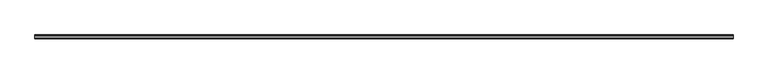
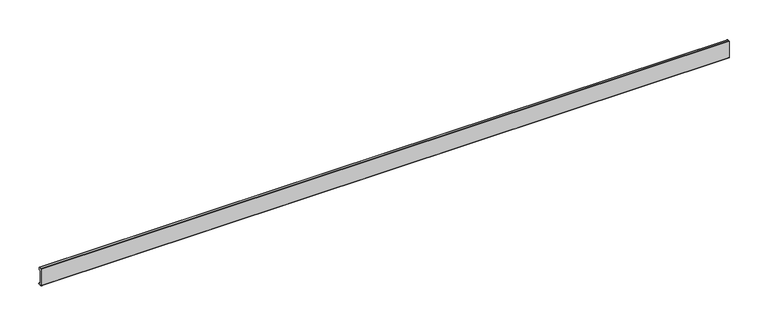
"""IFC4 building model written with IfcOpenShell, lengths in millimetres: proxy geometry, Weiku - Montante - Capa de folha 02.3.02.406 : Weiku - Montante - Capa de folha 02.3.02.406."""

from ifc_helpers import new_model, si_unit, point, frame, frame_2d, origin, place, context, project, spatial, polyline, circle_curve, trimmed, segment, composite_curve, outline, extrude, source, transform, mapped, element, save


def generic_models_46f284a0(model_context):
    return source(origin(), model_context, "Body", "SweptSolid", [
        extrude(outline(composite_curve([segment(polyline([(4.6421508, 2.2715508), (5.3603515, 1.056104)]), True, "CONTINUOUS"), segment(trimmed(circle_curve(frame_2d((4.7576991, 0.7)), 0.7), [point((5.3603515, 1.056104))], [point((4.7576991, 0.0))], False, "CARTESIAN"), True, "CONTINUOUS"), segment(polyline([(4.7576991, 0.0), (0.5, 0.0)]), True, "CONTINUOUS"), segment(trimmed(circle_curve(frame_2d((0.5, 0.5)), 0.5), [point((0.5, 0.0))], [point((0.0, 0.5))], False, "CARTESIAN"), True, "CONTINUOUS"), segment(polyline([(0.0, 0.5), (0.0, 26.2)]), True, "CONTINUOUS"), segment(trimmed(circle_curve(frame_2d((0.5, 26.2)), 0.5), [point((0.0, 26.2))], [point((0.5, 26.7))], False, "CARTESIAN"), True, "CONTINUOUS"), segment(polyline([(0.5, 26.7), (3.78, 26.7)]), True, "CONTINUOUS"), segment(trimmed(circle_curve(frame_2d((3.78, 26.2)), 0.5), [point((3.78, 26.7))], [point((4.28, 26.2))], False, "CARTESIAN"), True, "CONTINUOUS"), segment(polyline([(4.28, 26.2), (4.28, 22.3396), (3.3063, 22.3396), (3.3063, 25.684), (1.6933, 25.684), (1.6933, 1.016), (3.3866, 1.016), (4.6421508, 2.2715508)]), True, "CONTINUOUS")], self_intersect=False)), frame((-510.4, 0.0, 0.0), z_axis=(1.0, 0.0, 0.0), x_axis=(0.0, 1.0, 0.0)), (0.0, 0.0, 1.0), 1020.8),
    ])


if __name__ == "__main__":
    model = new_model("IFC4")
    model_context = context("Model", 3, world=origin())
    ifc_project = project(units=[si_unit("LENGTHUNIT", "METRE", prefix="MILLI")], contexts=[model_context])
    site = spatial("IfcSite", under=ifc_project)
    building = spatial("IfcBuilding", under=site)
    placement = place(None, origin())
    generic_models_shape = generic_models_46f284a0(model_context)
    element("IfcBuildingElementProxy", 1, Name="Weiku - Montante - Capa de folha 02.3.02.406 : Weiku - Montante - Capa de folha 02.3.02.406", ObjectType="Weiku - Montante - Capa de folha 02.3.02.406 : Weiku - Montante - Capa de folha 02.3.02.406", at=placement, inside=building, context=model_context, shape_type="MappedRepresentation", body=[
        mapped(generic_models_shape, transform((0.0, 0.0, 0.0), x_axis=(1.0, 0.0, 0.0), y_axis=(0.0, 1.0, 0.0), z_axis=(0.0, 0.0, 1.0))),
    ])
    save(model, "model.ifc")
